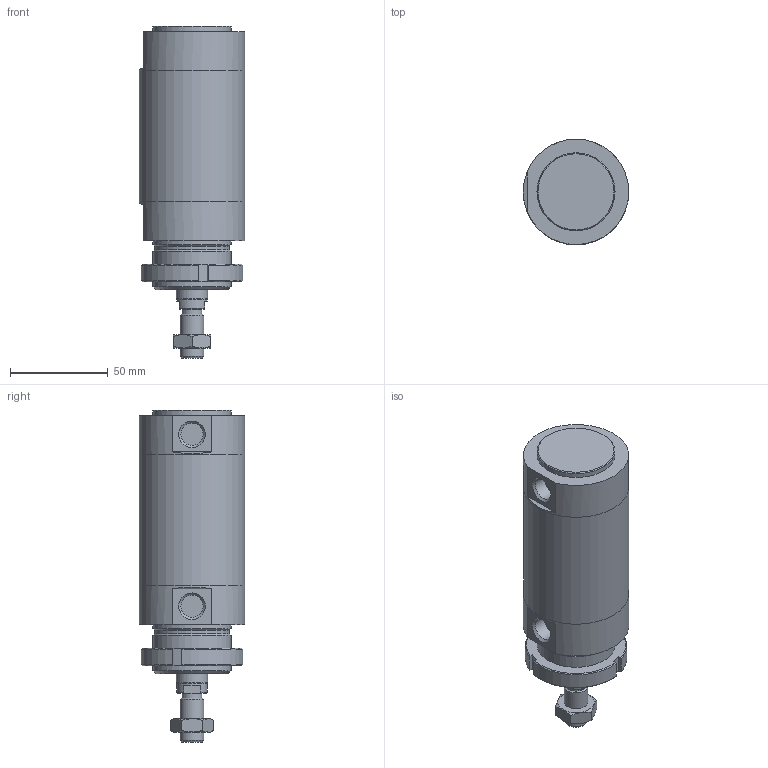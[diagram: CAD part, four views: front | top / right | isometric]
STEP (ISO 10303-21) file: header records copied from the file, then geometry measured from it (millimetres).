
FILE_DESCRIPTION(/* description */ (''),/* implementation_level */ '2;1');
FILE_NAME(/* name */ 'I:\Area Tecnica\Documenti\A-Manieri\_Inventor\12X\12X#D_###_####_#_#\12XAD_050_0025_#_#.stp',/* time_stamp */ '2015-04-29T16:43:58+02:00',/* author */ ('maniean1'),/* organization */ ('Pneumax S.p.A.'),/* preprocessor_version */ 'ST-DEVELOPER v15.2',/* originating_system */ 'Autodesk Inventor 2014',/* authorisation */ '');
FILE_SCHEMA (('AUTOMOTIVE_DESIGN { 1 0 10303 214 3 1 1 }'));
Length unit declared in the file: millimetre
Products named in the file (7): C1250_619-0025; 12X50_604; S12X50_0025; 12X_50_11; 12X50_611; G12X_050_05; 12XAD_050_0025_#_#
Bounding box: 54 x 54 x 170 mm (x, y, z)
Volume: 248664.1 mm3; surface area: 64956.5 mm2
Topology: 6 solids, 6 shells, 81 faces, 175 edges, 112 vertices
Faces by surface type: plane 41, cylinder 21, cone 19
Full cylindrical faces by diameter (mm): 10.2 x1, 11.4 x2, 12 x2, 14 x1, 15.6 x1, 16 x1, 38.2 x1, 40 x4, 50 x2, 54 x3
Entity records: 2155 total; most frequent: CARTESIAN_POINT 400, DIRECTION 364, ORIENTED_EDGE 284, AXIS2_PLACEMENT_3D 156, EDGE_CURVE 142, EDGE_LOOP 124, VERTEX_POINT 108, ADVANCED_FACE 81
